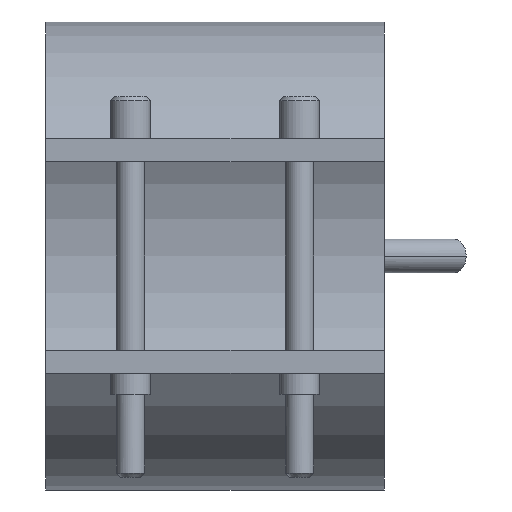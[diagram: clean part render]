
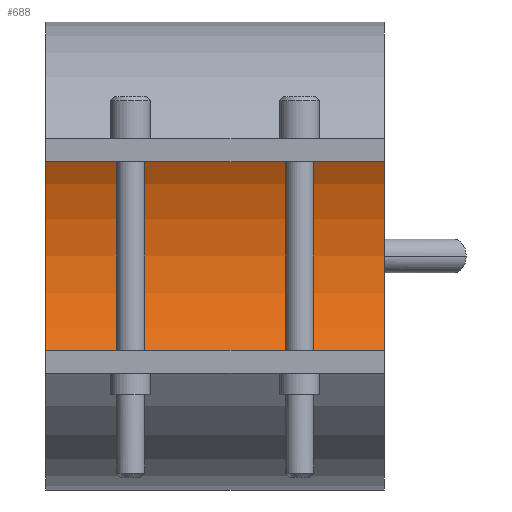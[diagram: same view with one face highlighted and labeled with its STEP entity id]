
A CAD part, front view. The second image highlights one B-rep face of the part: STEP entity #688.
In plain terms, the highlighted cylindrical face has radius 37.5 mm (diameter 75 mm), a partial arc.
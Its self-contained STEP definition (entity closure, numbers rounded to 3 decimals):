
#358=CARTESIAN_POINT('Vertex',(30.,0.,37.5)) ;
#363=CARTESIAN_POINT('Axis2P3D Location',(30.,0.,0.)) ;
#367=CARTESIAN_POINT('Vertex',(30.,0.,-37.5)) ;
#474=CARTESIAN_POINT('Vertex',(-30.,0.,-37.5)) ;
#477=CARTESIAN_POINT('Axis2P3D Location',(-30.,0.,0.)) ;
#481=CARTESIAN_POINT('Vertex',(-30.,0.,37.5)) ;
#660=CARTESIAN_POINT('Line Origine',(30.,0.,37.5)) ;
#672=CARTESIAN_POINT('Axis2P3D Location',(30.,0.,0.)) ;
#677=CARTESIAN_POINT('Line Origine',(30.,0.,-37.5)) ;
#364=DIRECTION('Axis2P3D Direction',(1.,0.,0.)) ;
#478=DIRECTION('Axis2P3D Direction',(1.,0.,0.)) ;
#661=DIRECTION('Vector Direction',(1.,0.,0.)) ;
#673=DIRECTION('Axis2P3D Direction',(1.,0.,-0.)) ;
#674=DIRECTION('Axis2P3D XDirection',(0.,0.,-1.)) ;
#678=DIRECTION('Vector Direction',(1.,0.,0.)) ;
#365=AXIS2_PLACEMENT_3D('Circle Axis2P3D',#363,#364,$) ;
#479=AXIS2_PLACEMENT_3D('Circle Axis2P3D',#477,#478,$) ;
#675=AXIS2_PLACEMENT_3D('Cylinder Axis2P3D',#672,#673,#674) ;
#683=ORIENTED_EDGE('',*,*,#369,.T.) ;
#684=ORIENTED_EDGE('',*,*,#664,.T.) ;
#685=ORIENTED_EDGE('',*,*,#483,.F.) ;
#686=ORIENTED_EDGE('',*,*,#681,.T.) ;
#662=VECTOR('Line Direction',#661,1.) ;
#679=VECTOR('Line Direction',#678,1.) ;
#688=ADVANCED_FACE('29075060',(#687),#676,.F.) ;
#366=CIRCLE('generated circle',#365,37.5) ;
#480=CIRCLE('generated circle',#479,37.5) ;
#676=CYLINDRICAL_SURFACE('generated cylinder',#675,37.5) ;
#369=EDGE_CURVE('',#368,#359,#366,.T.) ;
#483=EDGE_CURVE('',#475,#482,#480,.T.) ;
#664=EDGE_CURVE('',#359,#482,#663,.F.) ;
#681=EDGE_CURVE('',#475,#368,#680,.T.) ;
#682=EDGE_LOOP('',(#683,#684,#685,#686)) ;
#687=FACE_OUTER_BOUND('',#682,.T.) ;
#663=LINE('Line',#660,#662) ;
#680=LINE('Line',#677,#679) ;
#359=VERTEX_POINT('',#358) ;
#368=VERTEX_POINT('',#367) ;
#475=VERTEX_POINT('',#474) ;
#482=VERTEX_POINT('',#481) ;
